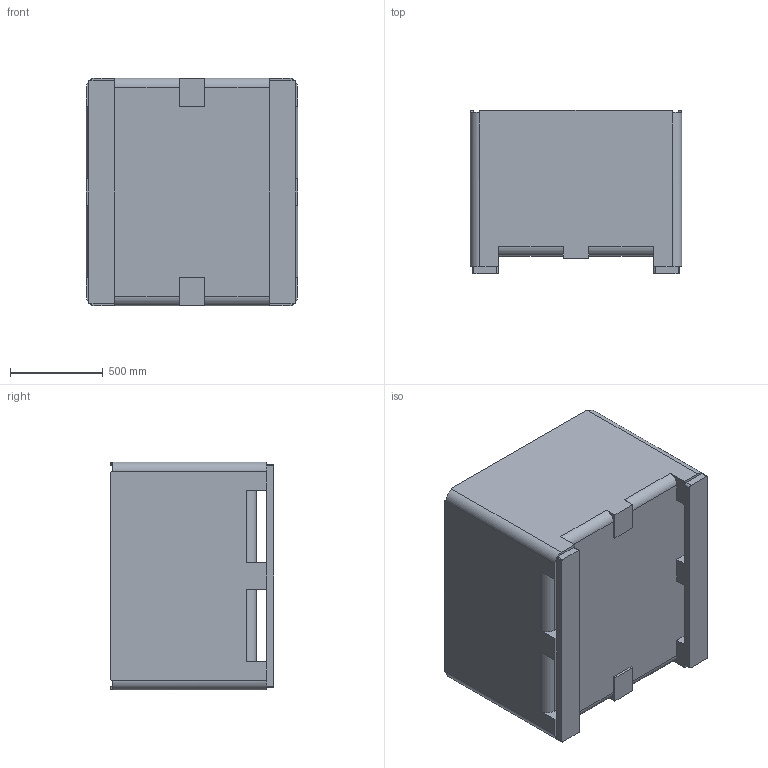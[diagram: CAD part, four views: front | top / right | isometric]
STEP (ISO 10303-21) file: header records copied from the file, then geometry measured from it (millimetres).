
FILE_DESCRIPTION (( 'STEP AP214' ), '1' );
FILE_NAME ('34S Block Model.STEP', '2013-06-03T15:34:20', ( 'Bryant Conder' ), ( '' ), 'SwSTEP 2.0', 'SolidWorks 2013', '' );
FILE_SCHEMA (( 'AUTOMOTIVE_DESIGN' ));
Length unit declared in the file: inch
Products named in the file (1): 34S Block Model
Bounding box: 1136.65 x 879.48 x 1225.55 mm (x, y, z)
Volume: 210160068.8 mm3; surface area: 10316914.5 mm2
Topology: 1 solids, 1 shells, 99 faces, 304 edges, 200 vertices
Faces by surface type: plane 67, cylinder 32
Entity records: 3594 total; most frequent: CARTESIAN_POINT 820, ORIENTED_EDGE 608, DIRECTION 544, EDGE_CURVE 304, VECTOR 224, LINE 224, VERTEX_POINT 200, AXIS2_PLACEMENT_3D 160
